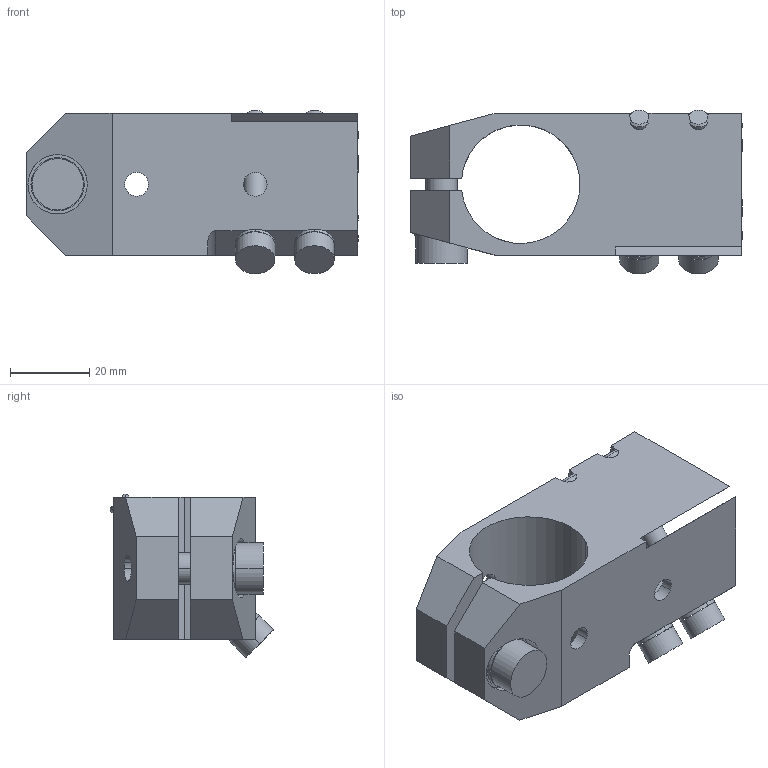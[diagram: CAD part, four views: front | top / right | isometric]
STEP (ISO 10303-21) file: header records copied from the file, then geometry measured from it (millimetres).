
FILE_DESCRIPTION(('STEP AP214'),'1');
FILE_NAME('EGT143_1714398_VERBINDER_D30_D30_FORM_L90_KE.CATPart.stp','2015-09-14T13:10:16',('3D-Tool'),(' '),'Spatial InterOp 3D',' ',' ');
FILE_SCHEMA(('automotive_design'));
Length unit declared in the file: millimetre
Products named in the file (3): 1; 2; 3
Bounding box: 84 x 41.37 x 41.37 mm (x, y, z)
Volume: 51293.2 mm3; surface area: 23014.2 mm2
Topology: 3 solids, 3 shells, 129 faces, 342 edges, 224 vertices
Faces by surface type: cylinder 79, plane 46, cone 4
Entity records: 6018 total; most frequent: CARTESIAN_POINT 1710, ORIENTED_EDGE 684, DIRECTION 650, EDGE_CURVE 342, AXIS2_PLACEMENT_3D 246, VERTEX_POINT 224, LINE 158, VECTOR 158
